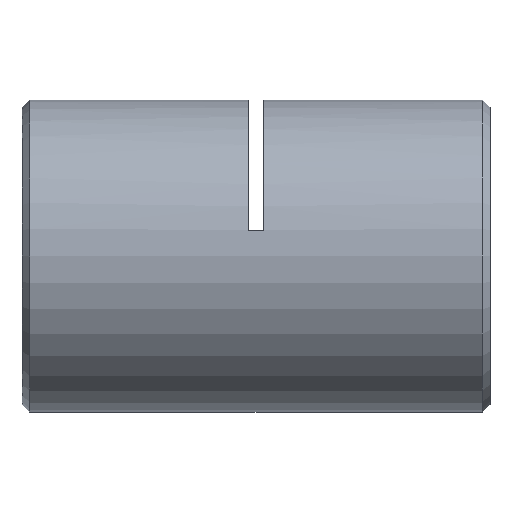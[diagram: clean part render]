
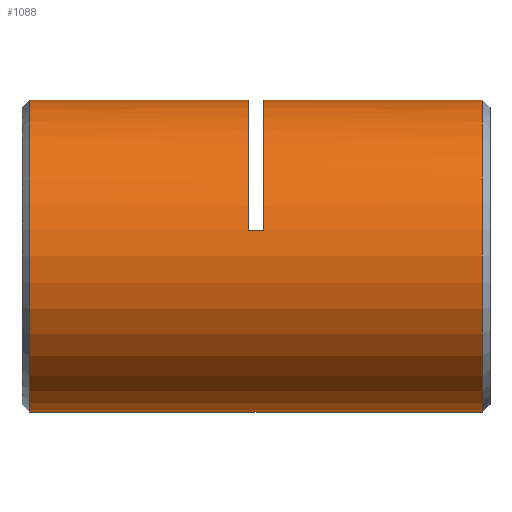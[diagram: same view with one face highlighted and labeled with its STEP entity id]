
A CAD part, left-side view. The second image highlights one B-rep face of the part: STEP entity #1088.
In plain terms, the highlighted cylindrical face has radius 10 mm (diameter 20 mm), a partial arc.
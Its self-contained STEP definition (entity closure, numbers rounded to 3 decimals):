
#15 = LINE ( 'NONE', #2321, #4491 ) ;
#53 = DIRECTION ( 'NONE',  ( 0., 0., 1. ) ) ;
#147 = EDGE_CURVE ( 'NONE', #2381, #3365, #4688, .T. ) ;
#264 = AXIS2_PLACEMENT_3D ( 'NONE', #3497, #3462, #1670 ) ;
#320 = CYLINDRICAL_SURFACE ( 'NONE', #1248, 10. ) ;
#411 = EDGE_CURVE ( 'NONE', #4274, #2885, #5226, .T. ) ;
#573 = DIRECTION ( 'NONE',  ( 0., 0., -1. ) ) ;
#627 = DIRECTION ( 'NONE',  ( 0., 1., 0. ) ) ;
#646 = AXIS2_PLACEMENT_3D ( 'NONE', #1398, #3985, #1868 ) ;
#653 = CARTESIAN_POINT ( 'NONE',  ( 0., 0., 10. ) ) ;
#694 = VECTOR ( 'NONE', #1932, 1000. ) ;
#740 = CARTESIAN_POINT ( 'NONE',  ( 0., 14.75, 0. ) ) ;
#795 = CIRCLE ( 'NONE', #264, 10. ) ;
#1011 = VECTOR ( 'NONE', #2065, 1000. ) ;
#1036 = CARTESIAN_POINT ( 'NONE',  ( 0., 14.75, 10. ) ) ;
#1038 = CARTESIAN_POINT ( 'NONE',  ( 0., 15.75, 10. ) ) ;
#1088 = ADVANCED_FACE ( 'NONE', ( #3859 ), #320, .T. ) ;
#1109 = LINE ( 'NONE', #653, #694 ) ;
#1184 = EDGE_CURVE ( 'NONE', #4019, #3943, #795, .T. ) ;
#1244 = VECTOR ( 'NONE', #2508, 1000. ) ;
#1248 = AXIS2_PLACEMENT_3D ( 'NONE', #2215, #2667, #53 ) ;
#1276 = DIRECTION ( 'NONE',  ( 0., 1., 0. ) ) ;
#1353 = ORIENTED_EDGE ( 'NONE', *, *, #411, .T. ) ;
#1382 = EDGE_CURVE ( 'NONE', #2381, #5511, #5572, .T. ) ;
#1398 = CARTESIAN_POINT ( 'NONE',  ( 0., 15.75, 0. ) ) ;
#1531 = AXIS2_PLACEMENT_3D ( 'NONE', #3704, #4963, #573 ) ;
#1670 = DIRECTION ( 'NONE',  ( 0., 0., 1. ) ) ;
#1677 = CARTESIAN_POINT ( 'NONE',  ( -9.86, 14.75, 1.667 ) ) ;
#1868 = DIRECTION ( 'NONE',  ( 0., 0., 1. ) ) ;
#1932 = DIRECTION ( 'NONE',  ( 0., 1., 0. ) ) ;
#2065 = DIRECTION ( 'NONE',  ( 0., 1., 0. ) ) ;
#2082 = CIRCLE ( 'NONE', #1531, 10. ) ;
#2215 = CARTESIAN_POINT ( 'NONE',  ( 0., 0., 0. ) ) ;
#2233 = EDGE_CURVE ( 'NONE', #2885, #2267, #2082, .T. ) ;
#2236 = EDGE_LOOP ( 'NONE', ( #2513, #4419, #3556, #2925, #4784, #2803, #1353, #4920 ) ) ;
#2267 = VERTEX_POINT ( 'NONE', #2785 ) ;
#2321 = CARTESIAN_POINT ( 'NONE',  ( 0., 0., -10. ) ) ;
#2381 = VERTEX_POINT ( 'NONE', #1677 ) ;
#2508 = DIRECTION ( 'NONE',  ( 0., 1., 0. ) ) ;
#2513 = ORIENTED_EDGE ( 'NONE', *, *, #3733, .F. ) ;
#2667 = DIRECTION ( 'NONE',  ( 0., 1., 0. ) ) ;
#2759 = CARTESIAN_POINT ( 'NONE',  ( 0., 29.75, 10. ) ) ;
#2785 = CARTESIAN_POINT ( 'NONE',  ( 0., 29.75, -10. ) ) ;
#2803 = ORIENTED_EDGE ( 'NONE', *, *, #4426, .T. ) ;
#2879 = CARTESIAN_POINT ( 'NONE',  ( 0., 0.75, -10. ) ) ;
#2885 = VERTEX_POINT ( 'NONE', #2759 ) ;
#2925 = ORIENTED_EDGE ( 'NONE', *, *, #1382, .F. ) ;
#3365 = VERTEX_POINT ( 'NONE', #4494 ) ;
#3462 = DIRECTION ( 'NONE',  ( 0., 1., 0. ) ) ;
#3497 = CARTESIAN_POINT ( 'NONE',  ( 0., 0.75, 0. ) ) ;
#3556 = ORIENTED_EDGE ( 'NONE', *, *, #5108, .T. ) ;
#3704 = CARTESIAN_POINT ( 'NONE',  ( 0., 29.75, 0. ) ) ;
#3733 = EDGE_CURVE ( 'NONE', #4019, #2267, #15, .T. ) ;
#3859 = FACE_OUTER_BOUND ( 'NONE', #2236, .T. ) ;
#3943 = VERTEX_POINT ( 'NONE', #4810 ) ;
#3985 = DIRECTION ( 'NONE',  ( 0., 1., 0. ) ) ;
#4019 = VERTEX_POINT ( 'NONE', #2879 ) ;
#4117 = AXIS2_PLACEMENT_3D ( 'NONE', #740, #1276, #5523 ) ;
#4274 = VERTEX_POINT ( 'NONE', #1038 ) ;
#4419 = ORIENTED_EDGE ( 'NONE', *, *, #1184, .T. ) ;
#4426 = EDGE_CURVE ( 'NONE', #3365, #4274, #5551, .T. ) ;
#4491 = VECTOR ( 'NONE', #627, 1000. ) ;
#4494 = CARTESIAN_POINT ( 'NONE',  ( -9.86, 15.75, 1.667 ) ) ;
#4688 = LINE ( 'NONE', #5099, #1244 ) ;
#4784 = ORIENTED_EDGE ( 'NONE', *, *, #147, .T. ) ;
#4810 = CARTESIAN_POINT ( 'NONE',  ( 0., 0.75, 10. ) ) ;
#4920 = ORIENTED_EDGE ( 'NONE', *, *, #2233, .T. ) ;
#4963 = DIRECTION ( 'NONE',  ( 0., -1., 0. ) ) ;
#5099 = CARTESIAN_POINT ( 'NONE',  ( -9.86, 15.25, 1.667 ) ) ;
#5108 = EDGE_CURVE ( 'NONE', #3943, #5511, #1109, .T. ) ;
#5226 = LINE ( 'NONE', #5524, #1011 ) ;
#5511 = VERTEX_POINT ( 'NONE', #1036 ) ;
#5523 = DIRECTION ( 'NONE',  ( 0., 0., 1. ) ) ;
#5524 = CARTESIAN_POINT ( 'NONE',  ( 0., 0., 10. ) ) ;
#5551 = CIRCLE ( 'NONE', #646, 10. ) ;
#5572 = CIRCLE ( 'NONE', #4117, 10. ) ;
